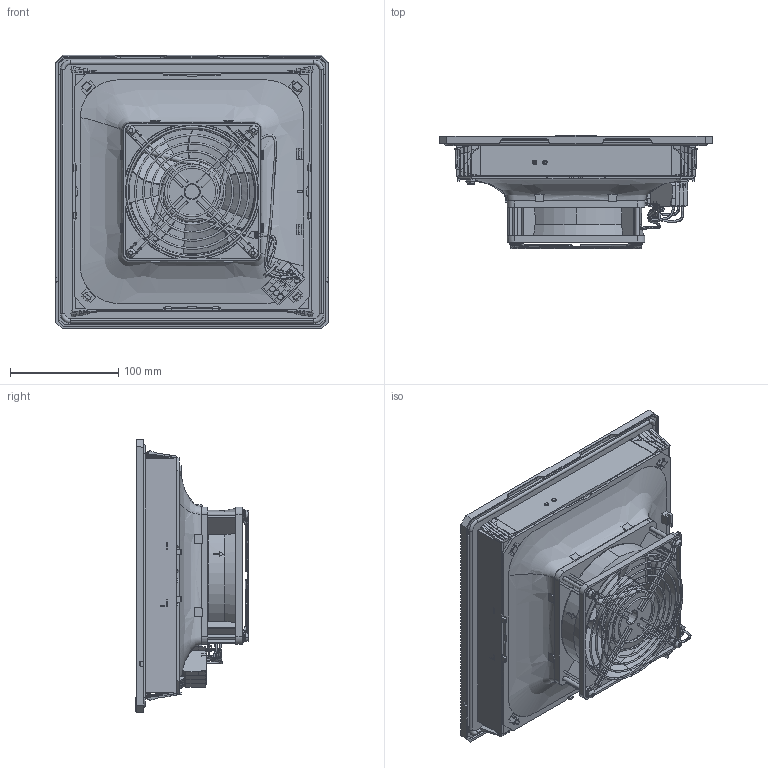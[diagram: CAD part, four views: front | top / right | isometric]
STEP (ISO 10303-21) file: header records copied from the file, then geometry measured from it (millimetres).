
FILE_DESCRIPTION (( 'STEP AP214' ), '1' );
FILE_NAME ('PF 42500_AC_DC.STEP', '2008-04-15T10:00:03', ( 'Pfannenberg' ), ( 'Pfannenberg GmbH' ), 'SwSTEP 2.0', 'SolidWorks 2007', '' );
FILE_SCHEMA (( 'AUTOMOTIVE_DESIGN' ));
Length unit declared in the file: millimetre
Products named in the file (1): PF 42500_AC_DC
Bounding box: 252 x 104.99 x 252.7 mm (x, y, z)
Surface area: 534868.8 mm2 (no closed solid volume)
Topology: 0 solids, 58 shells, 1848 faces, 8141 edges, 6146 vertices
Faces by surface type: plane 1015, cylinder 594, bspline 105, torus 86, cone 44, sphere 4
Entity records: 121190 total; most frequent: CARTESIAN_POINT 41184, ORIENTED_EDGE 12239, DIRECTION 10382, EDGE_CURVE 8129, VERTEX_POINT 6146, VECTOR 4260, LINE 4260, AXIS2_PLACEMENT_3D 3061
